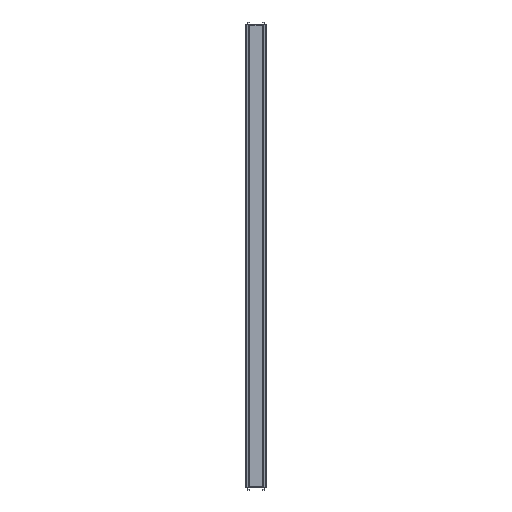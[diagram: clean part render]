
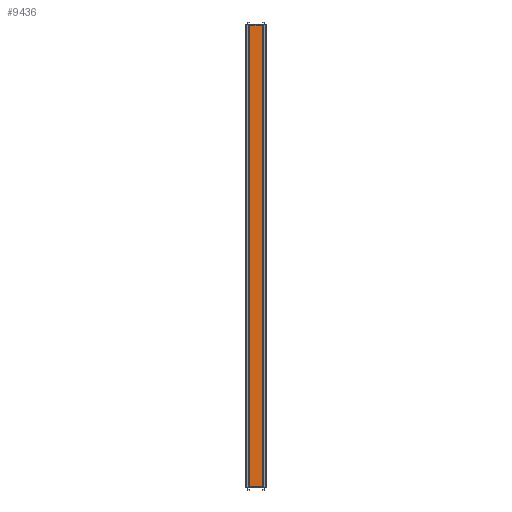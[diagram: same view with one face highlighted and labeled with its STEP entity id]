
A CAD part, top view. The second image highlights one B-rep face of the part: STEP entity #9436.
In plain terms, the highlighted planar face has unit normal (0, 0, 1).
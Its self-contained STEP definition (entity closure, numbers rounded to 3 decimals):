
#9436=ADVANCED_FACE('',(#48642),#48644,.F.);
#48642=FACE_BOUND('',#48643,.T.);
#48643=EDGE_LOOP('',(#83655,#83656,#83657,#83658));
#48644=PLANE('',#48645);
#48645=AXIS2_PLACEMENT_3D('',#48646,#48647,#48648);
#48646=CARTESIAN_POINT('',(0.,0.,38.));
#48647=DIRECTION('',(0.,0.,-1.));
#48648=DIRECTION('',(-1.,0.,0.));
#83655=ORIENTED_EDGE('',*,*,#104899,.F.);
#83656=ORIENTED_EDGE('',*,*,#104900,.T.);
#83657=ORIENTED_EDGE('',*,*,#104901,.F.);
#83658=ORIENTED_EDGE('',*,*,#104902,.T.);
#104899=EDGE_CURVE('',#118731,#118732,#118733,.T.);
#104900=EDGE_CURVE('',#118731,#118734,#118735,.T.);
#104901=EDGE_CURVE('',#118736,#118734,#118737,.T.);
#104902=EDGE_CURVE('',#118736,#118732,#118738,.T.);
#118731=VERTEX_POINT('',#145087);
#118732=VERTEX_POINT('',#145088);
#118733=LINE('',#145089,#145090);
#118734=VERTEX_POINT('',#145092);
#118735=LINE('',#145093,#145094);
#118736=VERTEX_POINT('',#145096);
#118737=LINE('',#145097,#145098);
#118738=LINE('',#145100,#145101);
#145087=CARTESIAN_POINT('',(-28.1,-967.5,38.));
#145088=CARTESIAN_POINT('',(-28.1,967.5,38.));
#145089=CARTESIAN_POINT('',(-28.1,-967.5,38.));
#145090=VECTOR('',#145091,1.);
#145091=DIRECTION('',(0.,1.,0.));
#145092=CARTESIAN_POINT('',(28.1,-967.5,38.));
#145093=CARTESIAN_POINT('',(-28.1,-967.5,38.));
#145094=VECTOR('',#145095,1.);
#145095=DIRECTION('',(1.,0.,0.));
#145096=CARTESIAN_POINT('',(28.1,967.5,38.));
#145097=CARTESIAN_POINT('',(28.1,967.5,38.));
#145098=VECTOR('',#145099,1.);
#145099=DIRECTION('',(0.,-1.,0.));
#145100=CARTESIAN_POINT('',(28.1,967.5,38.));
#145101=VECTOR('',#145102,1.);
#145102=DIRECTION('',(-1.,0.,0.));
